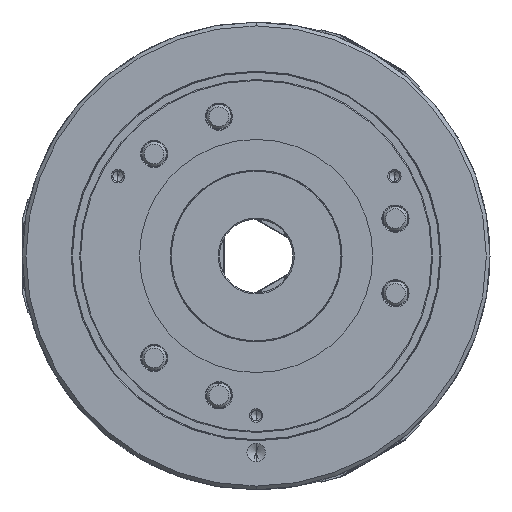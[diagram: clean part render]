
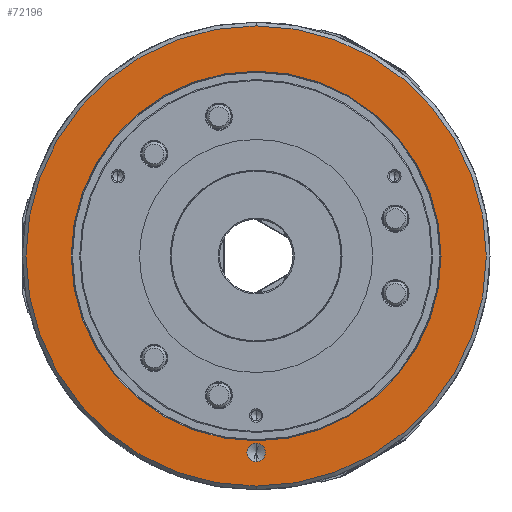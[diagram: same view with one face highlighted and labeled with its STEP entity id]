
A CAD part, left-side view. The second image highlights one B-rep face of the part: STEP entity #72196.
In plain terms, the highlighted planar face has unit normal (-1, 0, 0).
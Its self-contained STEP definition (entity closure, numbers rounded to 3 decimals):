
#2075 = DIRECTION ( 'NONE',  ( 0., 0., 1. ) ) ;
#2142 = CIRCLE ( 'NONE', #37321, 7.5 ) ;
#5583 = CARTESIAN_POINT ( 'NONE',  ( -133., 0., -160. ) ) ;
#8278 = DIRECTION ( 'NONE',  ( -1., 0., 0. ) ) ;
#18239 = DIRECTION ( 'NONE',  ( -1., 0., 0. ) ) ;
#19174 = CARTESIAN_POINT ( 'NONE',  ( -133., 0., -150.6 ) ) ;
#23065 = DIRECTION ( 'NONE',  ( 0., 0., -1. ) ) ;
#26260 = DIRECTION ( 'NONE',  ( -1., 0., 0. ) ) ;
#34530 = CARTESIAN_POINT ( 'NONE',  ( -133., 0., 150.6 ) ) ;
#37321 = AXIS2_PLACEMENT_3D ( 'NONE', #5583, #26260, #214944 ) ;
#39604 = CIRCLE ( 'NONE', #228791, 150.6 ) ;
#41977 = EDGE_LOOP ( 'NONE', ( #210365, #173836 ) ) ;
#42794 = CIRCLE ( 'NONE', #271455, 150.6 ) ;
#44367 = ORIENTED_EDGE ( 'NONE', *, *, #212813, .F. ) ;
#46346 = EDGE_CURVE ( 'NONE', #250674, #247994, #42794, .T. ) ;
#51863 = DIRECTION ( 'NONE',  ( -1., 0., 0. ) ) ;
#52372 = DIRECTION ( 'NONE',  ( -1., 0., 0. ) ) ;
#56089 = EDGE_LOOP ( 'NONE', ( #177317, #67810 ) ) ;
#56387 = EDGE_CURVE ( 'NONE', #209343, #240702, #133980, .T. ) ;
#56960 = EDGE_CURVE ( 'NONE', #217384, #211364, #2142, .T. ) ;
#67810 = ORIENTED_EDGE ( 'NONE', *, *, #119674, .T. ) ;
#70290 = CARTESIAN_POINT ( 'NONE',  ( -133., 0., 0. ) ) ;
#72196 = ADVANCED_FACE ( 'NONE', ( #196527, #133252, #90516 ), #170420, .F. ) ;
#81608 = DIRECTION ( 'NONE',  ( 0., 0., 1. ) ) ;
#83287 = CARTESIAN_POINT ( 'NONE',  ( -133., 0., 187.5 ) ) ;
#90516 = FACE_OUTER_BOUND ( 'NONE', #56089, .T. ) ;
#92317 = DIRECTION ( 'NONE',  ( 0., 0., 1. ) ) ;
#105010 = CARTESIAN_POINT ( 'NONE',  ( -133., 0., 0. ) ) ;
#107593 = AXIS2_PLACEMENT_3D ( 'NONE', #105010, #18239, #81608 ) ;
#109851 = DIRECTION ( 'NONE',  ( 1., 0., 0. ) ) ;
#114304 = EDGE_LOOP ( 'NONE', ( #44367, #159613 ) ) ;
#114686 = AXIS2_PLACEMENT_3D ( 'NONE', #190765, #233450, #2075 ) ;
#119674 = EDGE_CURVE ( 'NONE', #240702, #209343, #169383, .T. ) ;
#127950 = CARTESIAN_POINT ( 'NONE',  ( -133., 0., -152.5 ) ) ;
#133252 = FACE_BOUND ( 'NONE', #114304, .T. ) ;
#133980 = CIRCLE ( 'NONE', #107593, 187.5 ) ;
#153037 = DIRECTION ( 'NONE',  ( 0., 0., 1. ) ) ;
#159613 = ORIENTED_EDGE ( 'NONE', *, *, #46346, .F. ) ;
#169383 = CIRCLE ( 'NONE', #209075, 187.5 ) ;
#170420 = PLANE ( 'NONE',  #213829 ) ;
#173836 = ORIENTED_EDGE ( 'NONE', *, *, #211052, .F. ) ;
#177317 = ORIENTED_EDGE ( 'NONE', *, *, #56387, .T. ) ;
#190765 = CARTESIAN_POINT ( 'NONE',  ( -133., 0., -160. ) ) ;
#196527 = FACE_BOUND ( 'NONE', #41977, .T. ) ;
#209075 = AXIS2_PLACEMENT_3D ( 'NONE', #239218, #51863, #213085 ) ;
#209343 = VERTEX_POINT ( 'NONE', #262866 ) ;
#210365 = ORIENTED_EDGE ( 'NONE', *, *, #56960, .F. ) ;
#211052 = EDGE_CURVE ( 'NONE', #211364, #217384, #255421, .T. ) ;
#211364 = VERTEX_POINT ( 'NONE', #244318 ) ;
#212813 = EDGE_CURVE ( 'NONE', #247994, #250674, #39604, .T. ) ;
#213085 = DIRECTION ( 'NONE',  ( 0., 0., 1. ) ) ;
#213829 = AXIS2_PLACEMENT_3D ( 'NONE', #233775, #109851, #23065 ) ;
#214944 = DIRECTION ( 'NONE',  ( 0., 0., 1. ) ) ;
#217384 = VERTEX_POINT ( 'NONE', #127950 ) ;
#228791 = AXIS2_PLACEMENT_3D ( 'NONE', #70290, #8278, #92317 ) ;
#233450 = DIRECTION ( 'NONE',  ( -1., 0., 0. ) ) ;
#233775 = CARTESIAN_POINT ( 'NONE',  ( -133., 187.5, 0. ) ) ;
#239218 = CARTESIAN_POINT ( 'NONE',  ( -133., 0., 0. ) ) ;
#240702 = VERTEX_POINT ( 'NONE', #83287 ) ;
#241066 = CARTESIAN_POINT ( 'NONE',  ( -133., 0., 0. ) ) ;
#244318 = CARTESIAN_POINT ( 'NONE',  ( -133., 0., -167.5 ) ) ;
#247994 = VERTEX_POINT ( 'NONE', #34530 ) ;
#250674 = VERTEX_POINT ( 'NONE', #19174 ) ;
#255421 = CIRCLE ( 'NONE', #114686, 7.5 ) ;
#262866 = CARTESIAN_POINT ( 'NONE',  ( -133., 0., -187.5 ) ) ;
#271455 = AXIS2_PLACEMENT_3D ( 'NONE', #241066, #52372, #153037 ) ;
